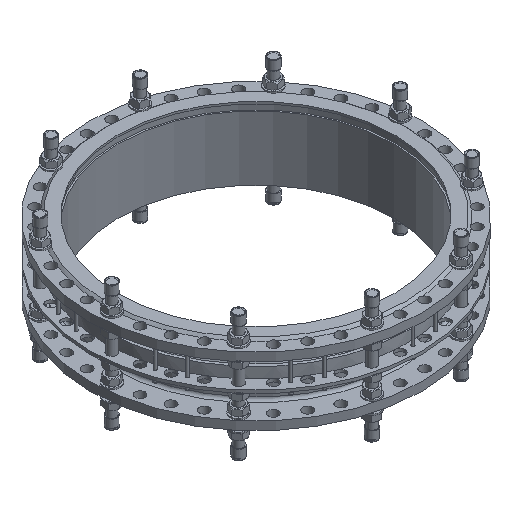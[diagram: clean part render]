
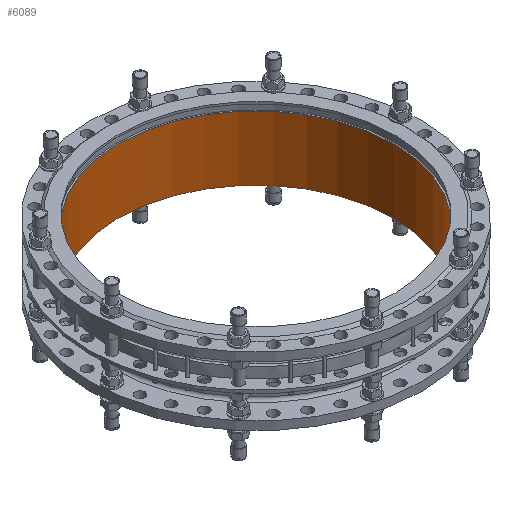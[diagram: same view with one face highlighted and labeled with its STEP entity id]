
A CAD part, isometric view. The second image highlights one B-rep face of the part: STEP entity #6089.
In plain terms, the highlighted cylindrical face has radius 800 mm (diameter 1600 mm), a full revolution.
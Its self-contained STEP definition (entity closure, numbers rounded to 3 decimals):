
#6089=ADVANCED_FACE('',(#6829,#6831),#6833,.F.);
#6829=FACE_OUTER_BOUND('',#6830,.T.);
#6830=EDGE_LOOP('',(#10012));
#6831=FACE_OUTER_BOUND('',#6832,.T.);
#6832=EDGE_LOOP('',(#10013));
#6833=CYLINDRICAL_SURFACE('',#6834,800.);
#6834=AXIS2_PLACEMENT_3D('',#6835,#6836,#6837);
#6835=CARTESIAN_POINT('',(0.,0.,0.));
#6836=DIRECTION('',(0.,0.,1.));
#6837=DIRECTION('',(-1.,0.,0.));
#10012=ORIENTED_EDGE('',*,*,#11943,.F.);
#10013=ORIENTED_EDGE('',*,*,#11944,.F.);
#11943=EDGE_CURVE('',#12824,#12824,#12825,.T.);
#11944=EDGE_CURVE('',#12826,#12826,#12827,.T.);
#12824=VERTEX_POINT('',#14413);
#12825=CIRCLE('',#14414,800.);
#12826=VERTEX_POINT('',#14418);
#12827=CIRCLE('',#14419,800.);
#14413=CARTESIAN_POINT('',(-800.,0.,373.));
#14414=AXIS2_PLACEMENT_3D('',#14415,#14416,#14417);
#14415=CARTESIAN_POINT('',(0.,0.,373.));
#14416=DIRECTION('',(0.,0.,-1.));
#14417=DIRECTION('',(-1.,0.,0.));
#14418=CARTESIAN_POINT('',(-800.,0.,0.));
#14419=AXIS2_PLACEMENT_3D('',#14420,#14421,#14422);
#14420=CARTESIAN_POINT('',(0.,0.,0.));
#14421=DIRECTION('',(0.,0.,1.));
#14422=DIRECTION('',(-1.,0.,0.));
